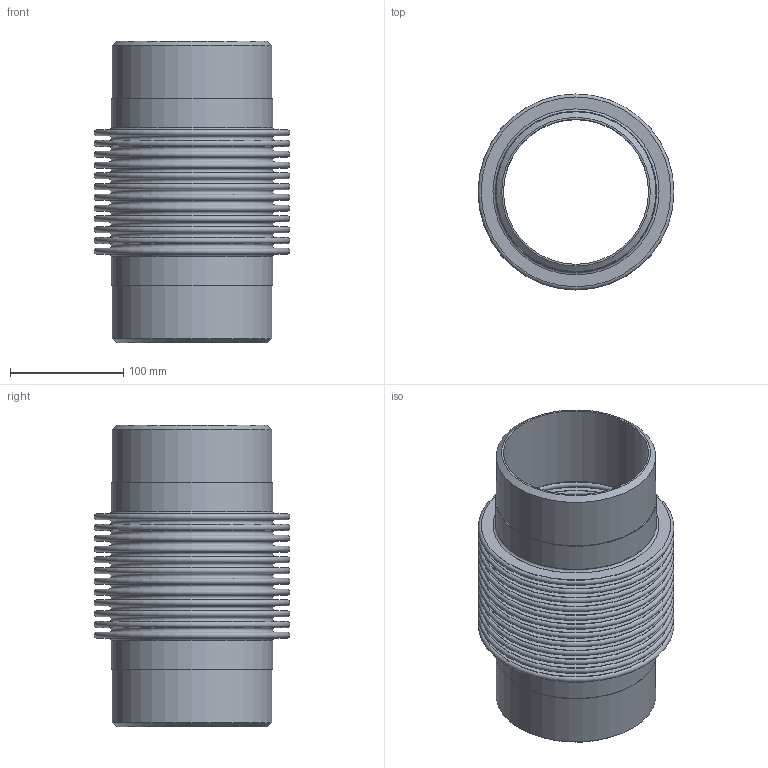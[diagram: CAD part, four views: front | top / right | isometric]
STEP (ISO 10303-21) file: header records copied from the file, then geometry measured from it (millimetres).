
FILE_DESCRIPTION(/* description */ ('EXPANSION JOINT,SINGLE, WELD ENDS,4 INCH NOMINAL'),/* implementation_level */ '2;1');
FILE_NAME(/* name */ 'ASSEMBLY US-5-12-85L.stp',/* time_stamp */ '2026-07-28T15:53:26-05:00',/* author */ ('jorgef'),/* organization */ (''),/* preprocessor_version */ 'ST-DEVELOPER v20.1',/* originating_system */ 'Autodesk Inventor 2026',/* authorisation */ '');
FILE_SCHEMA (('AUTOMOTIVE_DESIGN { 1 0 10303 214 3 1 1 }'));
Length unit declared in the file: inch
Products named in the file (3): ASSEMBLY  US-5-12-85L; STOCK BELLOW - US-5-12-85L; PIPE- US-5-12-85L
Assembly tree (3 placements, depth 2):
  ASSEMBLY  US-5-12-85L
    STOCK BELLOW - US-5-12-85L
    PIPE- US-5-12-85L  x2
Bounding box: 173.05 x 173.05 x 266.7 mm (x, y, z)
Volume: 558295.7 mm3; surface area: 611018.5 mm2
Topology: 5 solids, 5 shells, 118 faces, 180 edges, 121 vertices
Faces by surface type: plane 58, torus 50, cylinder 8, cone 2
Full cylindrical faces by diameter (mm): 128.194 x2, 141.3 x4, 142.519 x2
Entity records: 2769 total; most frequent: DIRECTION 573, CARTESIAN_POINT 405, ORIENTED_EDGE 342, AXIS2_PLACEMENT_3D 283, EDGE_CURVE 171, EDGE_LOOP 169, CIRCLE 164, VERTEX_POINT 114
